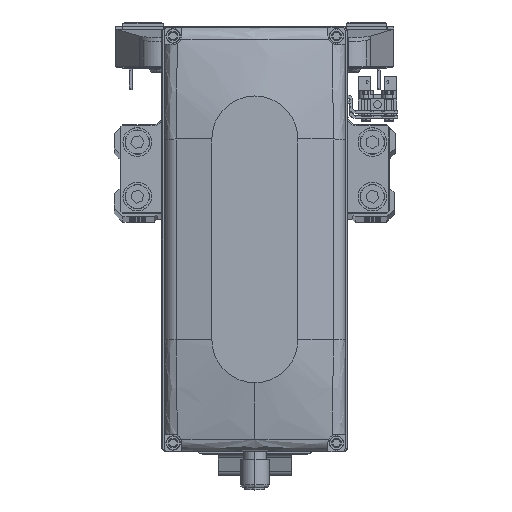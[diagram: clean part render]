
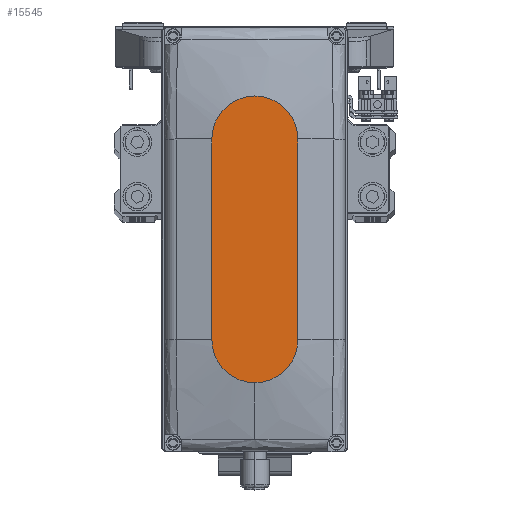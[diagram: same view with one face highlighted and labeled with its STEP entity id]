
A CAD part, top view. The second image highlights one B-rep face of the part: STEP entity #15545.
In plain terms, the highlighted planar face has unit normal (0, 0, 1).
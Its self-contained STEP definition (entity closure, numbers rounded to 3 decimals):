
#3214 = EDGE_CURVE ( 'NONE', #16394, #9009, #4680, .T. ) ;
#3555 = VERTEX_POINT ( 'NONE', #23634 ) ;
#4680 = LINE ( 'NONE', #19709, #15988 ) ;
#4953 = EDGE_CURVE ( 'NONE', #3555, #16394, #26506, .T. ) ;
#5219 = AXIS2_PLACEMENT_3D ( 'NONE', #46845, #13047, #28103 ) ;
#5403 = CARTESIAN_POINT ( 'NONE',  ( 0., 0., 35. ) ) ;
#5642 = DIRECTION ( 'NONE',  ( 0., 0., 1. ) ) ;
#7230 = CARTESIAN_POINT ( 'NONE',  ( -35., -15., 35. ) ) ;
#9009 = VERTEX_POINT ( 'NONE', #19378 ) ;
#9514 = CARTESIAN_POINT ( 'NONE',  ( 35., 0., 35. ) ) ;
#10104 = CARTESIAN_POINT ( 'NONE',  ( 35., -15., 35. ) ) ;
#13047 = DIRECTION ( 'NONE',  ( 0., 0., 1. ) ) ;
#13548 = CIRCLE ( 'NONE', #41110, 15. ) ;
#15038 = AXIS2_PLACEMENT_3D ( 'NONE', #9514, #24562, #39625 ) ;
#15545 = ADVANCED_FACE ( 'NONE', ( #24148 ), #39216, .T. ) ;
#15988 = VECTOR ( 'NONE', #34786, 1000. ) ;
#16394 = VERTEX_POINT ( 'NONE', #38605 ) ;
#17065 = LINE ( 'NONE', #32145, #34484 ) ;
#19378 = CARTESIAN_POINT ( 'NONE',  ( -35., 15., 35. ) ) ;
#19709 = CARTESIAN_POINT ( 'NONE',  ( -35., 15., 35. ) ) ;
#20427 = DIRECTION ( 'NONE',  ( 0., 0., 1. ) ) ;
#20674 = DIRECTION ( 'NONE',  ( 1., 0., 0. ) ) ;
#20822 = VERTEX_POINT ( 'NONE', #7230 ) ;
#22018 = ORIENTED_EDGE ( 'NONE', *, *, #4953, .T. ) ;
#22269 = EDGE_CURVE ( 'NONE', #20822, #43113, #17065, .T. ) ;
#23634 = CARTESIAN_POINT ( 'NONE',  ( 50., 0., 35. ) ) ;
#24148 = FACE_OUTER_BOUND ( 'NONE', #40461, .T. ) ;
#24562 = DIRECTION ( 'NONE',  ( 0., 0., 1. ) ) ;
#26506 = CIRCLE ( 'NONE', #5219, 15. ) ;
#28103 = DIRECTION ( 'NONE',  ( 1., 0., 0. ) ) ;
#32145 = CARTESIAN_POINT ( 'NONE',  ( -35., -15., 35. ) ) ;
#34484 = VECTOR ( 'NONE', #47203, 1000. ) ;
#34786 = DIRECTION ( 'NONE',  ( -1., 0., 0. ) ) ;
#35506 = DIRECTION ( 'NONE',  ( 1., 0., 0. ) ) ;
#36335 = CIRCLE ( 'NONE', #15038, 15. ) ;
#38073 = ORIENTED_EDGE ( 'NONE', *, *, #47221, .T. ) ;
#38605 = CARTESIAN_POINT ( 'NONE',  ( 35., 15., 35. ) ) ;
#39155 = AXIS2_PLACEMENT_3D ( 'NONE', #5403, #20427, #35506 ) ;
#39216 = PLANE ( 'NONE',  #39155 ) ;
#39461 = CARTESIAN_POINT ( 'NONE',  ( -35., 0., 35. ) ) ;
#39625 = DIRECTION ( 'NONE',  ( 1., 0., 0. ) ) ;
#40461 = EDGE_LOOP ( 'NONE', ( #42831, #38073, #47977, #45030, #22018 ) ) ;
#41110 = AXIS2_PLACEMENT_3D ( 'NONE', #39461, #5642, #20674 ) ;
#42831 = ORIENTED_EDGE ( 'NONE', *, *, #3214, .T. ) ;
#43113 = VERTEX_POINT ( 'NONE', #10104 ) ;
#45030 = ORIENTED_EDGE ( 'NONE', *, *, #46468, .T. ) ;
#46468 = EDGE_CURVE ( 'NONE', #43113, #3555, #36335, .T. ) ;
#46845 = CARTESIAN_POINT ( 'NONE',  ( 35., 0., 35. ) ) ;
#47203 = DIRECTION ( 'NONE',  ( 1., 0., 0. ) ) ;
#47221 = EDGE_CURVE ( 'NONE', #9009, #20822, #13548, .T. ) ;
#47977 = ORIENTED_EDGE ( 'NONE', *, *, #22269, .T. ) ;
